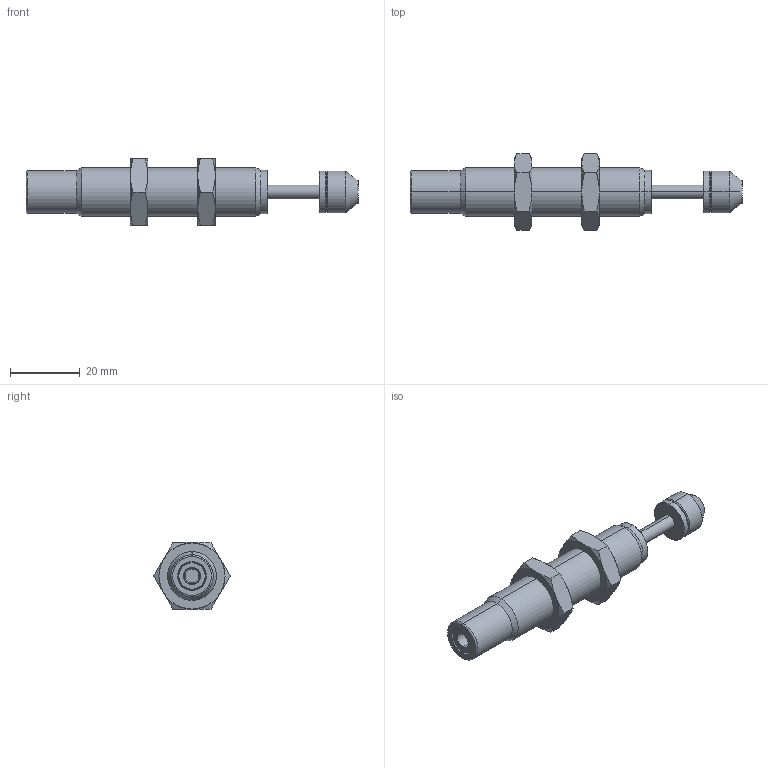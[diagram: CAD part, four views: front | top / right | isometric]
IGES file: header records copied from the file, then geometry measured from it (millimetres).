
Start section: SolidWorks IGES file using analytic representation for surfaces
Global section: file name: D:\IGS跡宒\AC1415-7K.IGS,1; native system: 5HSolidWorks 2013; preprocessor: SolidWorks 2013; author: Administrator; date: 160406.154151; units: inch
Bounding box: 95.45 x 21.94 x 19 mm (x, y, z)
Surface area: 6072 mm2 (no closed solid volume)
Topology: 0 solids, 0 shells, 99 faces, 1488 edges, 1488 vertices
Faces by surface type: revolution 72, bspline 27
